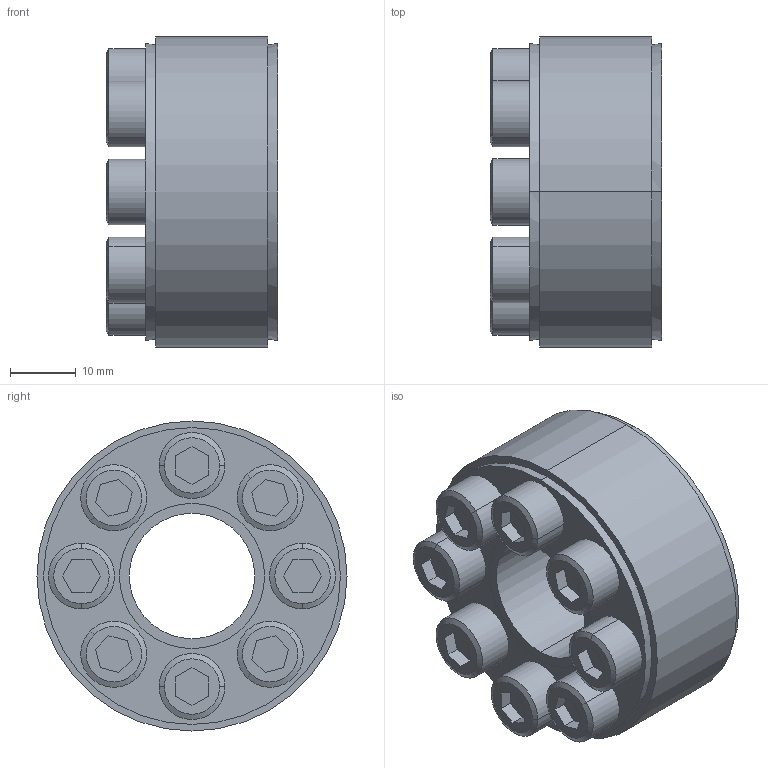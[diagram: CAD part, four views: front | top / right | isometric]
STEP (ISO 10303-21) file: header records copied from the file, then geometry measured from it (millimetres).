
FILE_DESCRIPTION (( 'STEP AP203' ), '1' );
FILE_NAME ('SA-19.step', '2009-09-29T15:24:23', ( 'USER' ), ( 'HOME' ), 'SwSTEP 2.0', 'SolidWorks 2007', '' );
FILE_SCHEMA (( 'CONFIG_CONTROL_DESIGN' ));
Length unit declared in the file: millimetre
Products named in the file (1): SA-19
Bounding box: 26 x 47 x 47 mm (x, y, z)
Volume: 32870.5 mm3; surface area: 22595.4 mm2
Topology: 11 solids, 11 shells, 170 faces, 372 edges, 240 vertices
Faces by surface type: plane 86, cylinder 52, cone 32
Entity records: 4769 total; most frequent: DIRECTION 858, CARTESIAN_POINT 783, ORIENTED_EDGE 744, EDGE_CURVE 372, AXIS2_PLACEMENT_3D 315, VERTEX_POINT 240, VECTOR 228, LINE 228
